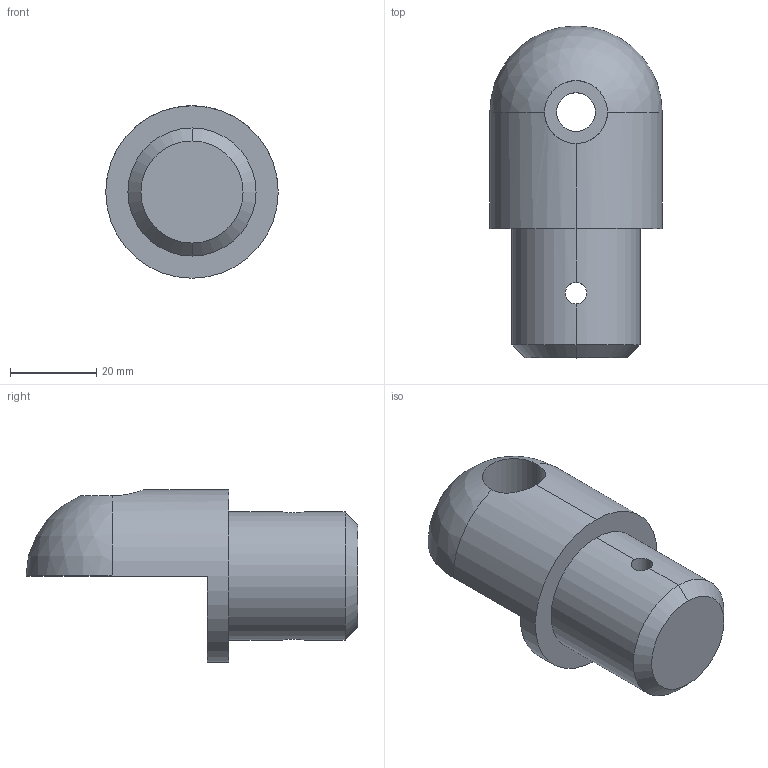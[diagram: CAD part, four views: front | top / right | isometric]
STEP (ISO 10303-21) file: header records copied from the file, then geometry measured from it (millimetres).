
FILE_DESCRIPTION (( 'STEP AP203' ), '1' );
FILE_NAME ('084.313.001-L.STEP', '2016-07-13T07:02:03', ( '' ), ( '' ), 'SwSTEP 2.0', 'SolidWorks 2016', '' );
FILE_SCHEMA (( 'CONFIG_CONTROL_DESIGN' ));
Length unit declared in the file: millimetre
Products named in the file (1): 084.313.001-L
Bounding box: 40 x 77 x 40 mm (x, y, z)
Volume: 45862.4 mm3; surface area: 10305.4 mm2
Topology: 1 solids, 1 shells, 18 faces, 47 edges, 30 vertices
Faces by surface type: cylinder 10, plane 5, cone 2, sphere 1
Entity records: 794 total; most frequent: CARTESIAN_POINT 266, DIRECTION 95, ORIENTED_EDGE 94, EDGE_CURVE 47, AXIS2_PLACEMENT_3D 39, VERTEX_POINT 30, EDGE_LOOP 21, CIRCLE 20
